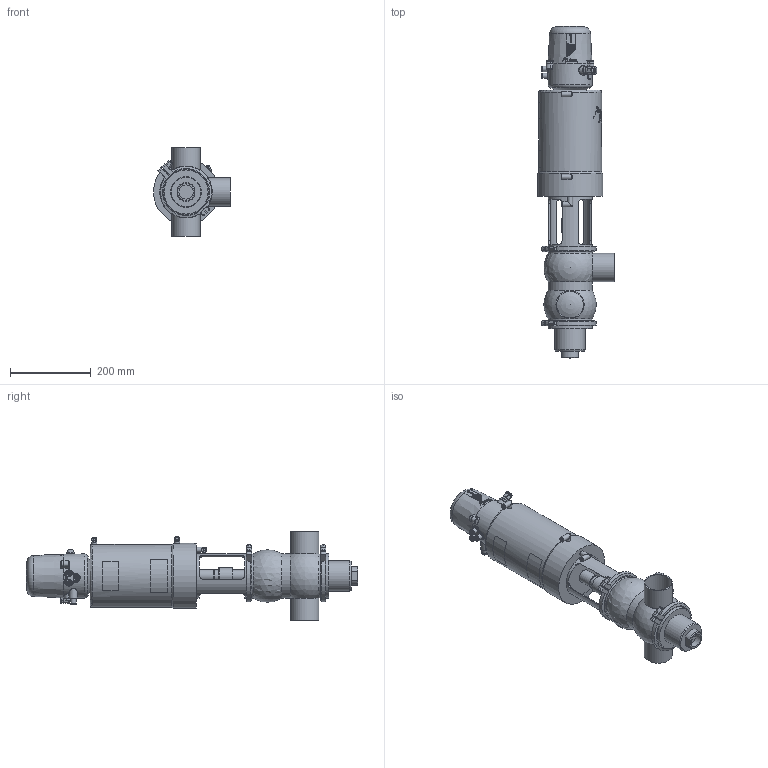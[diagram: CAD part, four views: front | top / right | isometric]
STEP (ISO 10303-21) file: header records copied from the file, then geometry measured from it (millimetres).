
FILE_DESCRIPTION (( 'STEP AP214' ), '1' );
FILE_NAME ('INNOVA P BB-90 W DIN 065 & C-TOP S_10.250.16.0013.STEP', '2024-08-09T11:57:02', ( '' ), ( '' ), 'SwSTEP 2.0', 'SolidWorks 2023', '' );
FILE_SCHEMA (( 'AUTOMOTIVE_DESIGN' ));
Length unit declared in the file: millimetre
Products named in the file (7): 10.250.15.0003_DN 065; 10.250.15.0002_Type P T2; 10.240.15.0001_DN 065; 10.251.15.0005_DIN 065; 10.250.15.0001_DIN 065; INNOVA P BB-90 W DIN 065 & C-TOP S_10.250.16.0013; 10.426.15.0001_C-TOP S - 3 EV
Assembly tree (7 placements, depth 2):
  INNOVA P BB-90 W DIN 065 & C-TOP S_10.250.16.0013
    10.250.15.0001_DIN 065
    10.250.15.0002_Type P T2
    10.426.15.0001_C-TOP S - 3 EV
    10.251.15.0005_DIN 065
    10.240.15.0001_DN 065  x2
    10.250.15.0003_DN 065
Bounding box: 190.5 x 822 x 220 mm (x, y, z)
Volume: 9485864.7 mm3; surface area: 596828.4 mm2
Topology: 7 solids, 7 shells, 1209 faces, 2903 edges, 1931 vertices
Faces by surface type: plane 416, cylinder 385, cone 204, bspline 162, torus 33, sphere 9
Full cylindrical faces by diameter (mm): 0.371 x17, 0.512 x16, 0.658 x16, 0.795 x16, 0.94 x15, 1.098 x15, 1.241 x13, 1.382 x13, 1.523 x11, 1.669 x10, 2.201 x1, 4.2 x2, 5 x1, 5.5 x2, 6 x4, 6.15 x3, 8 x5, 10 x1, 10.5 x3, 11 x4, 12.5 x9, 13 x6, 13.5 x2, 17 x3, 20 x2, 22 x2, 30.5 x2, 32 x1, 35 x1, 41 x1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
Entity records: 60158 total; most frequent: CARTESIAN_POINT 28673, ORIENTED_EDGE 4610, DIRECTION 3773, EDGE_CURVE 2305, VERTEX_POINT 1647, EDGE_LOOP 1638, AXIS2_PLACEMENT_3D 1556, FACE_OUTER_BOUND 1380
